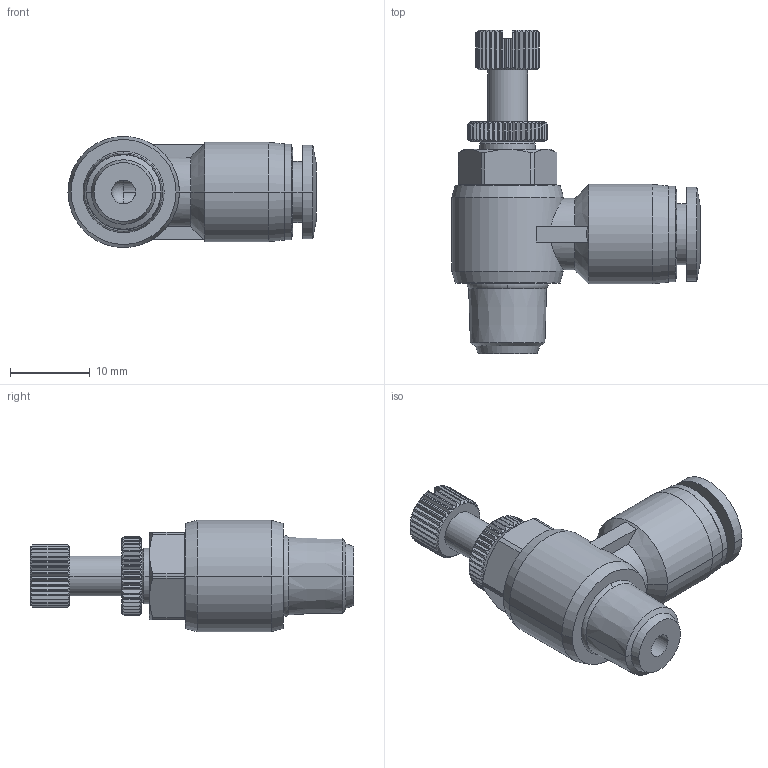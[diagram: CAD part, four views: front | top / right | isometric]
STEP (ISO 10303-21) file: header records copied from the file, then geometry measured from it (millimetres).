
FILE_DESCRIPTION (( 'STEP AP203' ), '1' );
FILE_NAME ('SCL06-01.STEP', '2020-05-12T15:34:36', ( '' ), ( '' ), 'SwSTEP 2.0', 'SolidWorks 2019', '' );
FILE_SCHEMA (( 'CONFIG_CONTROL_DESIGN' ));
Length unit declared in the file: millimetre
Products named in the file (1): SCL06-01
Bounding box: 31.2 x 40.7 x 14 mm (x, y, z)
Volume: 4729.2 mm3; surface area: 3155.8 mm2
Topology: 1 solids, 1 shells, 492 faces, 1099 edges, 620 vertices
Faces by surface type: plane 189, cone 185, cylinder 113, torus 4, sphere 1
Entity records: 13178 total; most frequent: CARTESIAN_POINT 3011, ORIENTED_EDGE 2196, DIRECTION 2167, EDGE_CURVE 1098, AXIS2_PLACEMENT_3D 918, VERTEX_POINT 620, EDGE_LOOP 506, FACE_OUTER_BOUND 492
